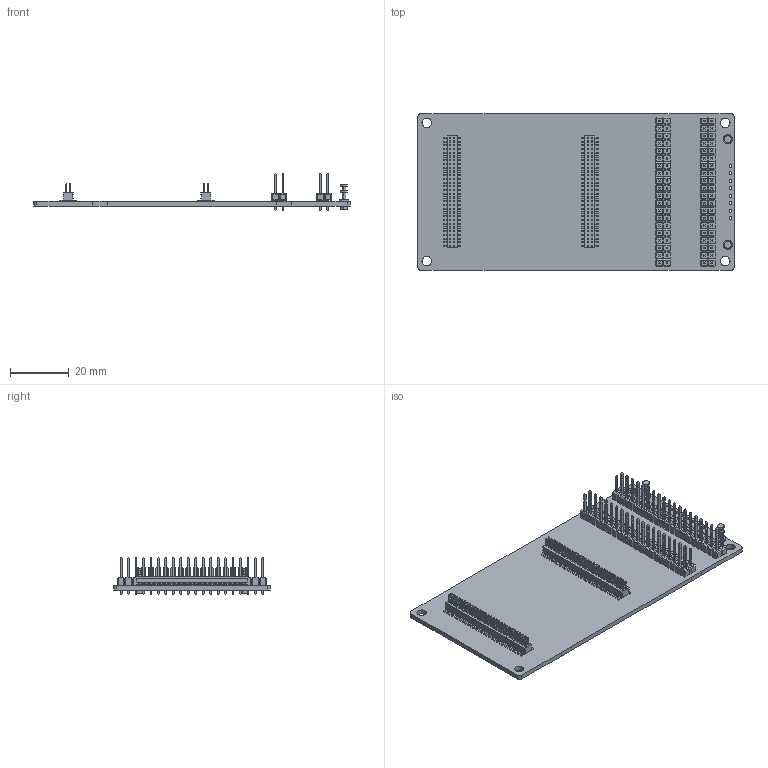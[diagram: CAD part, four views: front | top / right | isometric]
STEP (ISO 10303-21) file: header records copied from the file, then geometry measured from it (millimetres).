
FILE_DESCRIPTION(('Open CASCADE Model'),'2;1');
FILE_NAME('Open CASCADE Shape Model','2026-04-08T15:55:41',('Author'),( 'Open CASCADE'),'Open CASCADE STEP processor 7.5','Open CASCADE 7.5' ,'Unknown');
FILE_SCHEMA(('AUTOMOTIVE_DESIGN { 1 0 10303 214 1 1 1 1 }'));
Length unit declared in the file: millimetre
Products named in the file (15): PCB; Board; Open CASCADE STEP translator 7.5 1.1.1; J3; 1502-2--3DModel-STEP-56544_RGB8421504; J2; J15; pin4; J14; JMISC_MALE; FTSH-130-01-L-DV; FTSH-130-01-L-DV_body; FTSH-130-01-L-DV_pins1; FTSH-130-01-L-DV_pins2; JMEDIA_MALE
Assembly tree (95 placements, depth 4):
  PCB
    Board
      Open CASCADE STEP translator 7.5 1.1.1
    J3
      1502-2--3DModel-STEP-56544_RGB8421504
    J2
      1502-2--3DModel-STEP-56544_RGB8421504
    J15
      pin4  x40
    J14
      pin4  x40
    JMISC_MALE
      FTSH-130-01-L-DV
        FTSH-130-01-L-DV_body
        FTSH-130-01-L-DV_pins1
        FTSH-130-01-L-DV_pins2
    JMEDIA_MALE
      FTSH-130-01-L-DV
        FTSH-130-01-L-DV_body
        FTSH-130-01-L-DV_pins1
        FTSH-130-01-L-DV_pins2
Bounding box: 107.6 x 53.34 x 12.7 mm (x, y, z)
Volume: 11599.7 mm3; surface area: 21767.6 mm2
Topology: 169 solids, 169 shells, 5637 faces, 15303 edges, 10172 vertices
Faces by surface type: plane 5063, bspline 320, cylinder 250, cone 4
Full cylindrical faces by diameter (mm): 1 x92, 2.4 x2, 3.2 x4
Entity records: 46018 total; most frequent: CARTESIAN_POINT 8445, ORIENTED_EDGE 7758, DIRECTION 7113, EDGE_CURVE 3879, LINE 3433, VECTOR 3433, VERTEX_POINT 2503, AXIS2_PLACEMENT_3D 1840
